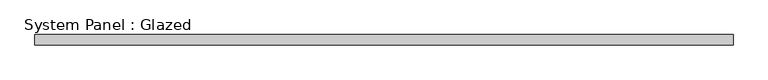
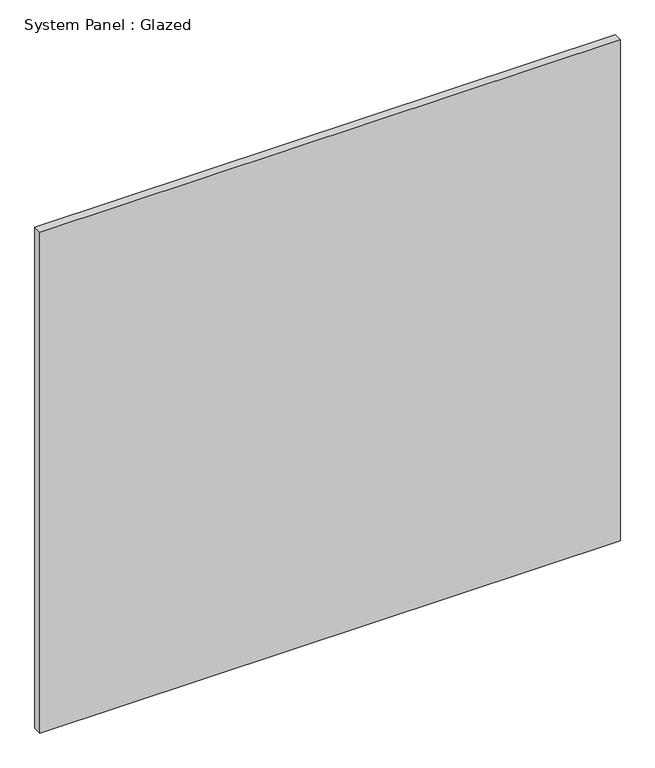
"""IFC4 building model written with IfcOpenShell, lengths in millimetres: plate geometry, System Panel : Glazed."""

from ifc_helpers import new_model, si_unit, origin, origin_with_axes, place, context, project, spatial, polyline, outline, extrude, source, transform, mapped, element, save


def system_panel_glazed_22c1f233(model_context):
    return source(origin(), model_context, "Body", "SweptSolid", [
        extrude(outline(polyline([(866.7750114, 19.05), (-866.7750114, 19.05), (-866.7750114, 44.45), (866.7750114, 44.45), (866.7750114, 19.05)])), origin_with_axes(), (0.0, 0.0, 1.0), 1581.15),
    ])


if __name__ == "__main__":
    model = new_model("IFC4")
    model_context = context("Model", 3, world=origin())
    ifc_project = project(units=[si_unit("LENGTHUNIT", "METRE", prefix="MILLI")], contexts=[model_context])
    site = spatial("IfcSite", under=ifc_project)
    building = spatial("IfcBuilding", under=site)
    placement = place(None, origin())
    system_panel_glazed_shape = system_panel_glazed_22c1f233(model_context)
    element("IfcPlate", 1, ObjectType="System Panel : Glazed", at=placement, inside=building, context=model_context, shape_type="MappedRepresentation", body=[
        mapped(system_panel_glazed_shape, transform((0.0, 0.0, 0.0), x_axis=(1.0, 0.0, 0.0), y_axis=(0.0, 1.0, 0.0), z_axis=(0.0, 0.0, 1.0))),
    ])
    save(model, "model.ifc")
